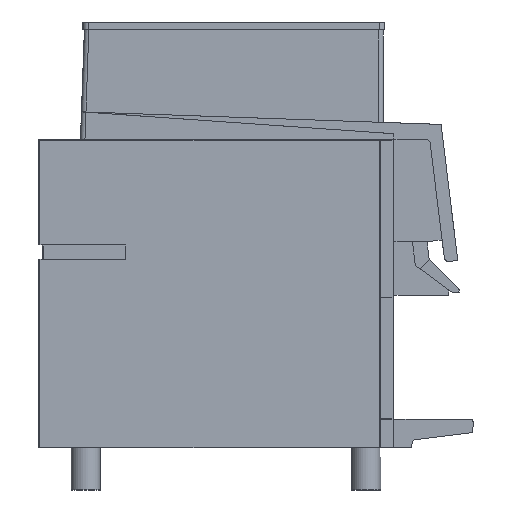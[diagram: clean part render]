
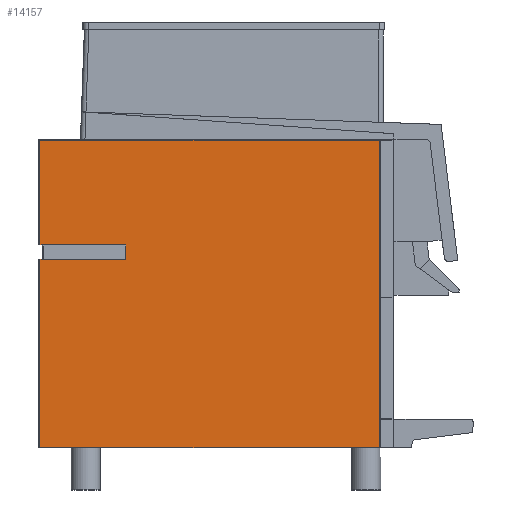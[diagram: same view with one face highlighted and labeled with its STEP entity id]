
A CAD part, left-side view. The second image highlights one B-rep face of the part: STEP entity #14157.
In plain terms, the highlighted planar face has unit normal (-1, 0, 0).
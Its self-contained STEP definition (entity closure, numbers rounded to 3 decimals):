
#2493=ORIENTED_EDGE('',*,*,#4545,.F.);
#2494=ORIENTED_EDGE('',*,*,#4648,.T.);
#2495=ORIENTED_EDGE('',*,*,#4649,.T.);
#2496=ORIENTED_EDGE('',*,*,#4650,.T.);
#2497=ORIENTED_EDGE('',*,*,#4651,.F.);
#2498=ORIENTED_EDGE('',*,*,#4652,.F.);
#2499=ORIENTED_EDGE('',*,*,#4653,.F.);
#2500=ORIENTED_EDGE('',*,*,#4654,.T.);
#2501=ORIENTED_EDGE('',*,*,#4655,.T.);
#2502=ORIENTED_EDGE('',*,*,#4656,.T.);
#4545=EDGE_CURVE('',#5741,#5742,#6787,.T.);
#4648=EDGE_CURVE('',#5741,#5819,#6873,.T.);
#4649=EDGE_CURVE('',#5819,#5820,#6874,.F.);
#4650=EDGE_CURVE('',#5820,#5821,#6875,.F.);
#4651=EDGE_CURVE('',#5822,#5821,#6876,.T.);
#4652=EDGE_CURVE('',#5823,#5822,#6877,.T.);
#4653=EDGE_CURVE('',#5824,#5823,#6878,.T.);
#4654=EDGE_CURVE('',#5824,#5825,#6879,.T.);
#4655=EDGE_CURVE('',#5825,#5826,#6880,.T.);
#4656=EDGE_CURVE('',#5826,#5742,#6881,.F.);
#5741=VERTEX_POINT('',#20178);
#5742=VERTEX_POINT('',#20180);
#5819=VERTEX_POINT('',#20385);
#5820=VERTEX_POINT('',#20387);
#5821=VERTEX_POINT('',#20389);
#5822=VERTEX_POINT('',#20391);
#5823=VERTEX_POINT('',#20393);
#5824=VERTEX_POINT('',#20395);
#5825=VERTEX_POINT('',#20397);
#5826=VERTEX_POINT('',#20399);
#6787=LINE('',#20179,#7963);
#6873=LINE('',#20384,#8049);
#6874=LINE('',#20386,#8050);
#6875=LINE('',#20388,#8051);
#6876=LINE('',#20390,#8052);
#6877=LINE('',#20392,#8053);
#6878=LINE('',#20394,#8054);
#6879=LINE('',#20396,#8055);
#6880=LINE('',#20398,#8056);
#6881=LINE('',#20400,#8057);
#7963=VECTOR('',#17101,1000.);
#8049=VECTOR('',#17271,1000.);
#8050=VECTOR('',#17272,1000.);
#8051=VECTOR('',#17273,1000.);
#8052=VECTOR('',#17274,1000.);
#8053=VECTOR('',#17275,1000.);
#8054=VECTOR('',#17276,1000.);
#8055=VECTOR('',#17277,1000.);
#8056=VECTOR('',#17278,1000.);
#8057=VECTOR('',#17279,1000.);
#8738=EDGE_LOOP('',(#2493,#2494,#2495,#2496,#2497,#2498,#2499,#2500,#2501,
#2502));
#9326=FACE_BOUND('',#8738,.T.);
#9799=PLANE('',#14960);
#14157=ADVANCED_FACE('',(#9326),#9799,.F.);
#14960=AXIS2_PLACEMENT_3D('',#20383,#17269,#17270);
#17101=DIRECTION('',(0.,1.,0.));
#17269=DIRECTION('',(1.,0.,0.));
#17270=DIRECTION('',(0.,1.,0.));
#17271=DIRECTION('',(0.,0.,1.));
#17272=DIRECTION('',(0.,-1.,0.));
#17273=DIRECTION('',(0.,0.,1.));
#17274=DIRECTION('',(0.,1.,0.));
#17275=DIRECTION('',(0.,1.,0.));
#17276=DIRECTION('',(0.,0.,1.));
#17277=DIRECTION('',(0.,1.,0.));
#17278=DIRECTION('',(0.,1.,0.));
#17279=DIRECTION('',(0.,0.,1.));
#20178=CARTESIAN_POINT('',(-160.,-470.,0.));
#20179=CARTESIAN_POINT('',(-160.,-490.,0.));
#20180=CARTESIAN_POINT('',(-160.,-1.2,0.));
#20383=CARTESIAN_POINT('',(-160.,0.,0.));
#20384=CARTESIAN_POINT('',(-160.,-470.,420.5));
#20385=CARTESIAN_POINT('',(-160.,-470.,424.8));
#20386=CARTESIAN_POINT('',(-160.,0.,424.8));
#20387=CARTESIAN_POINT('',(-160.,-1.2,424.8));
#20388=CARTESIAN_POINT('',(-160.,-1.2,0.));
#20389=CARTESIAN_POINT('',(-160.,-1.2,280.));
#20390=CARTESIAN_POINT('',(-160.,-5.,280.));
#20391=CARTESIAN_POINT('',(-160.,-5.133,280.));
#20392=CARTESIAN_POINT('',(-160.,-120.,280.));
#20393=CARTESIAN_POINT('',(-160.,-120.,280.));
#20394=CARTESIAN_POINT('',(-160.,-120.,260.));
#20395=CARTESIAN_POINT('',(-160.,-120.,260.));
#20396=CARTESIAN_POINT('',(-160.,-120.,260.));
#20397=CARTESIAN_POINT('',(-160.,-5.133,260.));
#20398=CARTESIAN_POINT('',(-160.,-5.,260.));
#20399=CARTESIAN_POINT('',(-160.,-1.2,260.));
#20400=CARTESIAN_POINT('',(-160.,-1.2,0.));
